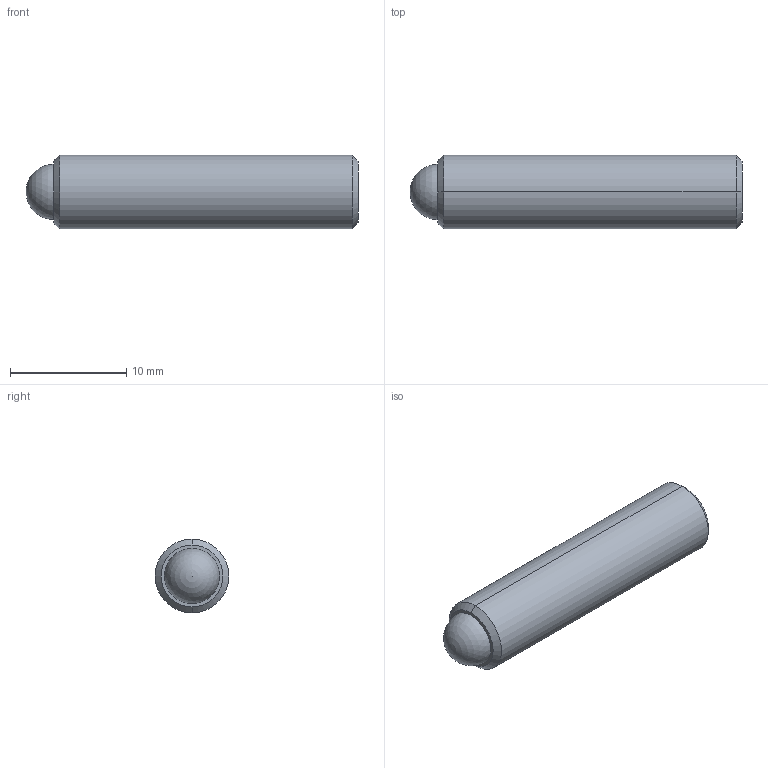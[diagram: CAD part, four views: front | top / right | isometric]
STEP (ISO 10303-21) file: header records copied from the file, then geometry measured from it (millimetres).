
FILE_DESCRIPTION (( 'STEP AP214' ), '1' );
FILE_NAME ('TS250-100-1125-AA.STEP', '2013-02-13T14:02:25', ( 'workpc' ), ( 'Microsoft' ), 'SwSTEP 2.0', 'SolidWorks 2013', '' );
FILE_SCHEMA (( 'AUTOMOTIVE_DESIGN' ));
Length unit declared in the file: inch
Products named in the file (1): TS250-100-1125-AA
Bounding box: 28.57 x 6.35 x 6.35 mm (x, y, z)
Volume: 838.1 mm3; surface area: 690 mm2
Topology: 2 solids, 2 shells, 20 faces, 45 edges, 29 vertices
Faces by surface type: plane 10, cylinder 4, cone 4, sphere 2
Entity records: 599 total; most frequent: DIRECTION 96, CARTESIAN_POINT 87, ORIENTED_EDGE 80, EDGE_CURVE 40, AXIS2_PLACEMENT_3D 35, VERTEX_POINT 26, VECTOR 26, LINE 26
